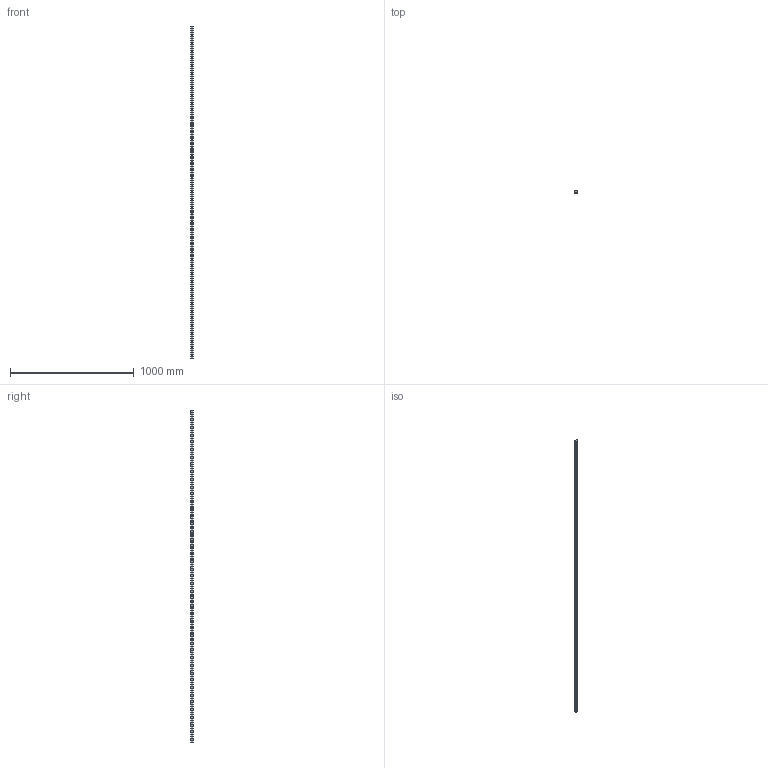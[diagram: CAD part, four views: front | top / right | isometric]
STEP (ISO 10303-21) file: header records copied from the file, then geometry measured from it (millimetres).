
FILE_DESCRIPTION (( 'STEP AP203' ), '1' );
FILE_NAME ('L1016.BL25-2680.step', '2019-06-12T12:12:10', ( '' ), ( '' ), 'SwSTEP 2.0', 'SolidWorks 2017', '' );
FILE_SCHEMA (( 'CONFIG_CONTROL_DESIGN' ));
Length unit declared in the file: millimetre
Products named in the file (1): L1016.BL25-2680
Bounding box: 23 x 19.2 x 2680 mm (x, y, z)
Volume: 987578.3 mm3; surface area: 253658.6 mm2
Topology: 1 solids, 1 shells, 251 faces, 612 edges, 408 vertices
Faces by surface type: cylinder 184, plane 67
Entity records: 7831 total; most frequent: DIRECTION 1484, CARTESIAN_POINT 1272, ORIENTED_EDGE 1224, AXIS2_PLACEMENT_3D 620, EDGE_CURVE 612, VERTEX_POINT 408, EDGE_LOOP 386, CIRCLE 368
